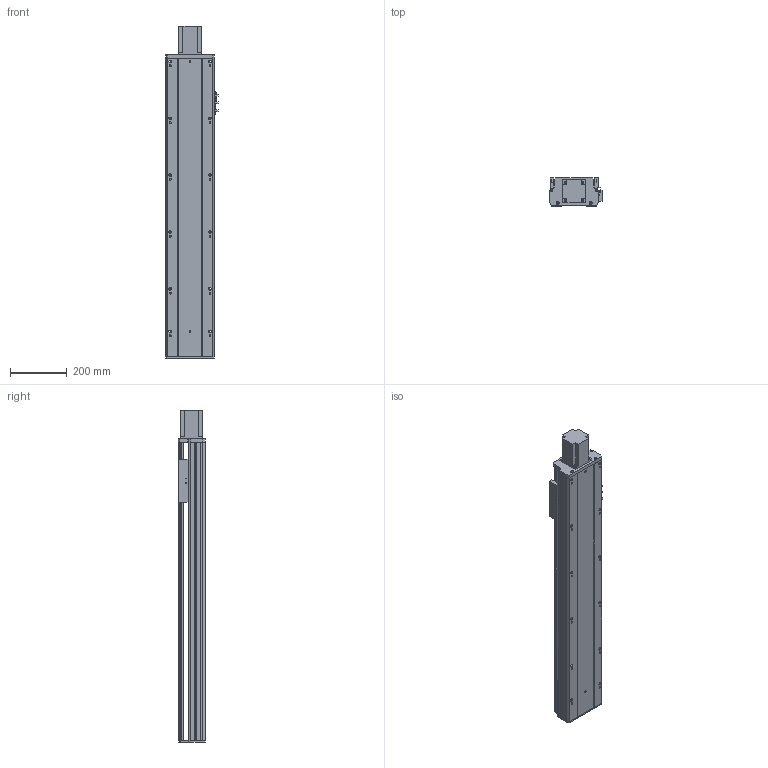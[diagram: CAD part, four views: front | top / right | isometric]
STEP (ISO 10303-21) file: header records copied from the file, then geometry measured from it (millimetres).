
FILE_DESCRIPTION (( 'STEP AP203' ), '1' );
FILE_NAME ('Y170-D10-S800-BD-P750W.STEP', '2020-01-22T06:57:51', ( '微软用户' ), ( '微软中国' ), 'SwSTEP 2.0', 'SolidWorks 2017', '' );
FILE_SCHEMA (( 'CONFIG_CONTROL_DESIGN' ));
Length unit declared in the file: millimetre
Products named in the file (10): 170--掛极-BD; Y170-萇儂楊擘啣--; 135-盓傅釱-FK15; 侂狟750W; Y170耜裔--準---; Y170-陔遴奻裔-BD; Y170--雄赽釱-梓--; YD-Y100-135-新外置传感挡片(通用）; Y170-D10-S800-BD-P750W; Y100-135俋离換覜ん
Assembly tree (11 placements, depth 2):
  Y170-D10-S800-BD-P750W
    YD-Y100-135-新外置传感挡片(通用）
    Y100-135俋离換覜ん  x3
    170--掛极-BD
    Y170-萇儂楊擘啣--
    135-盓傅釱-FK15
    侂狟750W
    Y170耜裔--準---
    Y170-陔遴奻裔-BD
    Y170--雄赽釱-梓--
Bounding box: 183.5 x 97 x 1168.5 mm (x, y, z)
Volume: 5106213.2 mm3; surface area: 1694304.7 mm2
Topology: 11 solids, 11 shells, 816 faces, 2307 edges, 1528 vertices
Faces by surface type: cylinder 426, plane 388, torus 2
Entity records: 26431 total; most frequent: CARTESIAN_POINT 4691, DIRECTION 4425, ORIENTED_EDGE 4278, EDGE_CURVE 2139, AXIS2_PLACEMENT_3D 1590, VERTEX_POINT 1416, LINE 1245, VECTOR 1245
